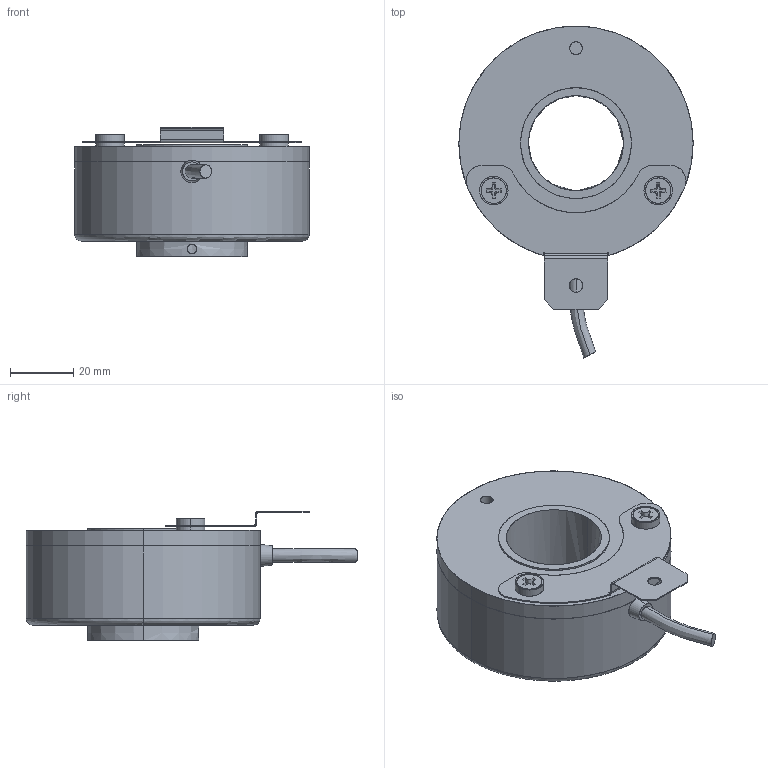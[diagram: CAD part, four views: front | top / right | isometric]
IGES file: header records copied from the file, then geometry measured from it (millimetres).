
Start section: SolidWorks IGES file using analytic representation for surfaces
Bounding box: 74 x 104.87 x 41 mm (x, y, z)
Surface area: 36130.2 mm2 (no closed solid volume)
Topology: 0 solids, 0 shells, 159 faces, 3154 edges, 3154 vertices
Faces by surface type: revolution 88, bspline 71
